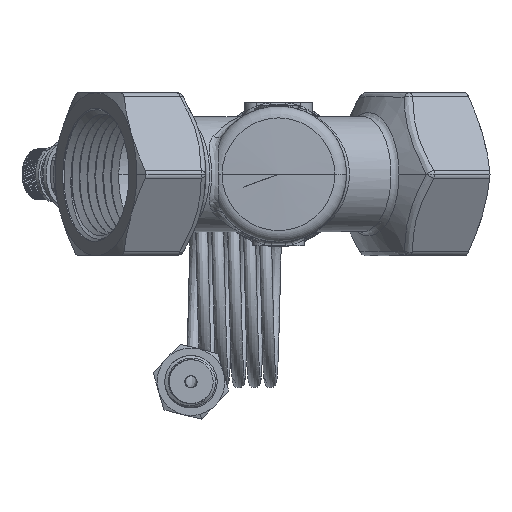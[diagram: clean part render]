
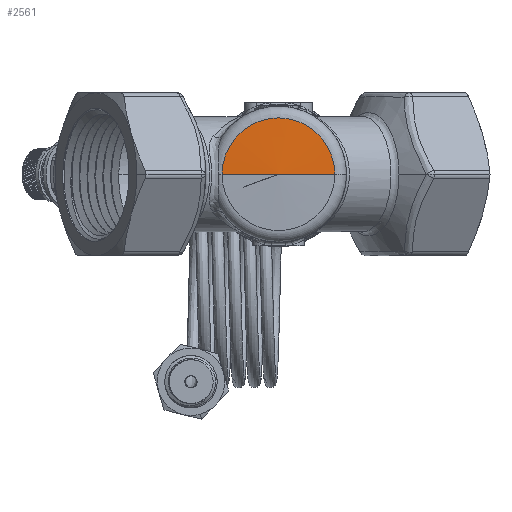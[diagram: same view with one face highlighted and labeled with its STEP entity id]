
A CAD part, front view. The second image highlights one B-rep face of the part: STEP entity #2561.
In plain terms, the highlighted conical face has half-angle 88.5 degrees and reference radius 14.178 mm.
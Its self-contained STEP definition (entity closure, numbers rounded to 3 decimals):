
#2561 = ADVANCED_FACE ( 'NONE', ( #183260 ), #159330, .T. ) ;
#14008 = ORIENTED_EDGE ( 'NONE', *, *, #49152, .T. ) ;
#37033 = DIRECTION ( 'NONE',  ( 0., 1., 0. ) ) ;
#37074 = ORIENTED_EDGE ( 'NONE', *, *, #101546, .F. ) ;
#46232 = VECTOR ( 'NONE', #234371, 1000. ) ;
#49152 = EDGE_CURVE ( 'NONE', #162422, #115247, #298159, .T. ) ;
#60029 = DIRECTION ( 'NONE',  ( 1., 0., 0. ) ) ;
#74761 = VECTOR ( 'NONE', #179848, 1000. ) ;
#101546 = EDGE_CURVE ( 'NONE', #162422, #275392, #208114, .T. ) ;
#103114 = EDGE_LOOP ( 'NONE', ( #37074, #14008, #162926 ) ) ;
#115247 = VERTEX_POINT ( 'NONE', #187090 ) ;
#129268 = CIRCLE ( 'NONE', #139817, 14.179 ) ;
#139817 = AXIS2_PLACEMENT_3D ( 'NONE', #163671, #240815, #166912 ) ;
#159330 = CONICAL_SURFACE ( 'NONE', #185592, 14.179, 1.545 ) ;
#162422 = VERTEX_POINT ( 'NONE', #192632 ) ;
#162926 = ORIENTED_EDGE ( 'NONE', *, *, #279884, .T. ) ;
#163671 = CARTESIAN_POINT ( 'NONE',  ( -2.5, -56.929, 0. ) ) ;
#166912 = DIRECTION ( 'NONE',  ( -1., 0., 0. ) ) ;
#179848 = DIRECTION ( 'NONE',  ( 1., 0.026, 0. ) ) ;
#183260 = FACE_OUTER_BOUND ( 'NONE', #103114, .T. ) ;
#185592 = AXIS2_PLACEMENT_3D ( 'NONE', #285006, #37033, #60029 ) ;
#187090 = CARTESIAN_POINT ( 'NONE',  ( 11.679, -56.929, 0. ) ) ;
#192632 = CARTESIAN_POINT ( 'NONE',  ( -2.5, -57.3, 0. ) ) ;
#208114 = LINE ( 'NONE', #285237, #46232 ) ;
#234371 = DIRECTION ( 'NONE',  ( -1., 0.026, 0. ) ) ;
#240815 = DIRECTION ( 'NONE',  ( 0., -1., 0. ) ) ;
#253716 = CARTESIAN_POINT ( 'NONE',  ( 11.679, -56.929, 0. ) ) ;
#257570 = CARTESIAN_POINT ( 'NONE',  ( -16.679, -56.929, 0. ) ) ;
#275392 = VERTEX_POINT ( 'NONE', #257570 ) ;
#279884 = EDGE_CURVE ( 'NONE', #115247, #275392, #129268, .T. ) ;
#285006 = CARTESIAN_POINT ( 'NONE',  ( -2.5, -56.929, 0. ) ) ;
#285237 = CARTESIAN_POINT ( 'NONE',  ( -16.679, -56.929, 0. ) ) ;
#298159 = LINE ( 'NONE', #253716, #74761 ) ;
